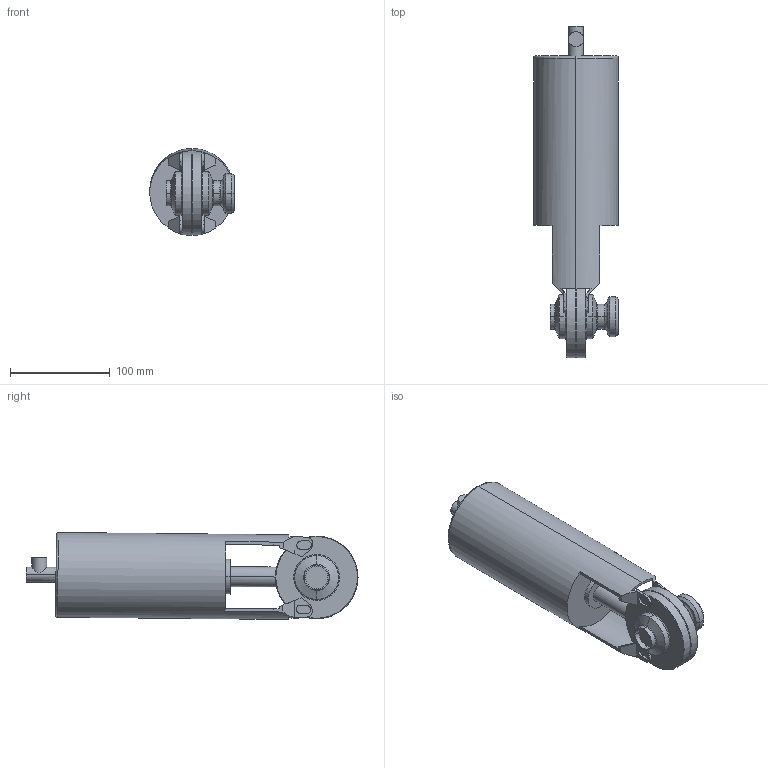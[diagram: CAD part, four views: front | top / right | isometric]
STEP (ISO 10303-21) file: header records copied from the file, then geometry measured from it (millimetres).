
FILE_DESCRIPTION(('Creo Elements/Direct Modeling STEP Export'),'2;1');
FILE_NAME('SV1-1T-FZ-1S2SMS.stp','2015-11-19T15:40:49',(''),(''),'PTC Creo Elements/Direct Modeling STEP processor for AP214 (Solid Model)','PTC Creo Elements/Direct Modeling 19.0B 21-Mar-2015 (C) Parametric Technology GmbH','');
FILE_SCHEMA(('AUTOMOTIVE_DESIGN { 1 0 10303 214 1 1 1 1 }'));
Length unit declared in the file: millimetre
Products named in the file (2): SV1-1T-FZ-1S2SMS
Assembly tree (1 placements, depth 2):
  SV1-1T-FZ-1S2SMS
    SV1-1T-FZ-1S2SMS
Bounding box: 85 x 333.22 x 87.29 mm (x, y, z)
Volume: 1156877.9 mm3; surface area: 101713.8 mm2
Topology: 1 solids, 1 shells, 154 faces, 399 edges, 254 vertices
Faces by surface type: plane 79, cylinder 47, cone 16, torus 12
Entity records: 4870 total; most frequent: CARTESIAN_POINT 1250, ORIENTED_EDGE 798, DIRECTION 710, EDGE_CURVE 399, AXIS2_PLACEMENT_3D 254, VERTEX_POINT 254, VECTOR 202, LINE 202
